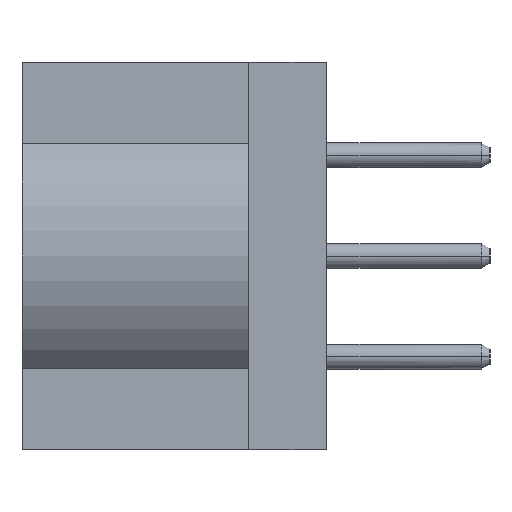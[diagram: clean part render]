
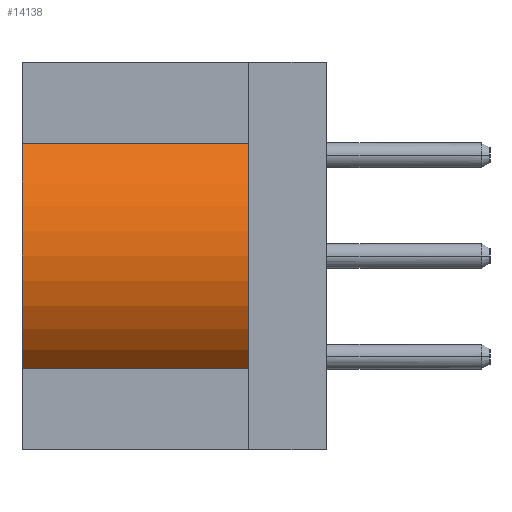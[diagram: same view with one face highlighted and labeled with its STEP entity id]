
A CAD part, left-side view. The second image highlights one B-rep face of the part: STEP entity #14138.
In plain terms, the highlighted cylindrical face has radius 3 mm (diameter 6 mm), a partial arc.
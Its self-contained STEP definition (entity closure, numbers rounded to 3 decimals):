
#46=CARTESIAN_POINT('',(-23.5,0.,0.));
#47=DIRECTION('',(0.,-1.,0.));
#48=DIRECTION('',(-0.667,0.,0.745));
#49=AXIS2_PLACEMENT_3D('',#46,#47,#48);
#6683=CARTESIAN_POINT('',(-23.5,-4.5,0.));
#6684=DIRECTION('',(0.,-1.,0.));
#6685=DIRECTION('',(-0.667,0.,0.745));
#6686=AXIS2_PLACEMENT_3D('',#6683,#6684,#6685);
#6976=DIRECTION('',(0.,-1.,0.));
#6977=VECTOR('',#6976,4.5);
#6978=CARTESIAN_POINT('',(-25.5,0.,-2.236));
#6979=LINE('',#6978,#6977);
#6983=DIRECTION('',(0.,-1.,0.));
#6984=VECTOR('',#6983,4.5);
#6985=CARTESIAN_POINT('',(-25.5,0.,2.236));
#6986=LINE('',#6985,#6984);
#7028=CARTESIAN_POINT('',(-25.5,0.,2.236));
#7029=VERTEX_POINT('',#7028);
#7030=CARTESIAN_POINT('',(-25.5,0.,-2.236));
#7031=VERTEX_POINT('',#7030);
#7043=CARTESIAN_POINT('',(-25.5,-4.5,2.236));
#7045=VERTEX_POINT('',#7043);
#7046=CARTESIAN_POINT('',(-25.5,-4.5,-2.236));
#7047=VERTEX_POINT('',#7046);
#14126=CARTESIAN_POINT('',(-23.5,0.,0.));
#14127=DIRECTION('',(0.,-1.,0.));
#14128=DIRECTION('',(-1.,0.,0.));
#14129=AXIS2_PLACEMENT_3D('',#14126,#14127,#14128);
#14130=CYLINDRICAL_SURFACE('',#14129,3.);
#14131=ORIENTED_EDGE('',*,*,#8217,.F.);
#14133=ORIENTED_EDGE('',*,*,#14132,.T.);
#14134=ORIENTED_EDGE('',*,*,#13800,.T.);
#14135=ORIENTED_EDGE('',*,*,#14119,.F.);
#14136=EDGE_LOOP('',(#14131,#14133,#14134,#14135));
#14137=FACE_OUTER_BOUND('',#14136,.F.);
#50=CIRCLE('',#49,3.);
#6687=CIRCLE('',#6686,3.);
#8217=EDGE_CURVE('',#7029,#7031,#50,.T.);
#13800=EDGE_CURVE('',#7045,#7047,#6687,.T.);
#14119=EDGE_CURVE('',#7031,#7047,#6979,.T.);
#14132=EDGE_CURVE('',#7029,#7045,#6986,.T.);
#14138=ADVANCED_FACE('',(#14137),#14130,.T.);
